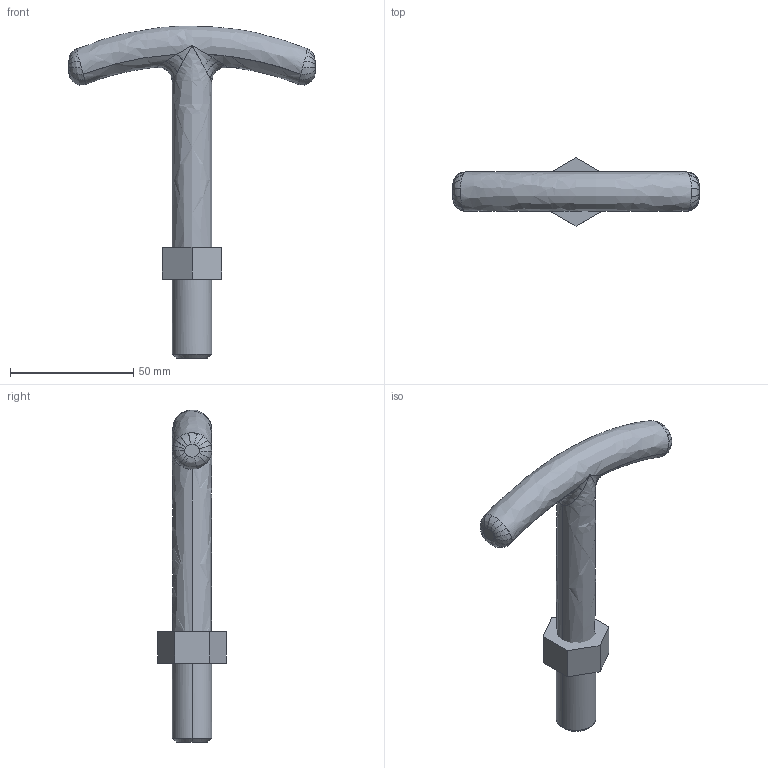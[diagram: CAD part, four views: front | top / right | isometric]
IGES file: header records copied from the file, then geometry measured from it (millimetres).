
Global section: file name: E:\UnigraphicsGraphicData\MISUMI_PRESS-PARTS\IGES\3d_tb16-135_05656_r00.igs; native system: NX V5.0; preprocessor: UGS NX IGES V5.0; author: MISUMI; date: 20110105.163351; units: millimetre
Bounding box: 100 x 27.71 x 134.88 mm (x, y, z)
Surface area: 13284.2 mm2 (no closed solid volume)
Topology: 0 solids, 0 shells, 71 faces, 484 edges, 480 vertices
Faces by surface type: bspline 71
